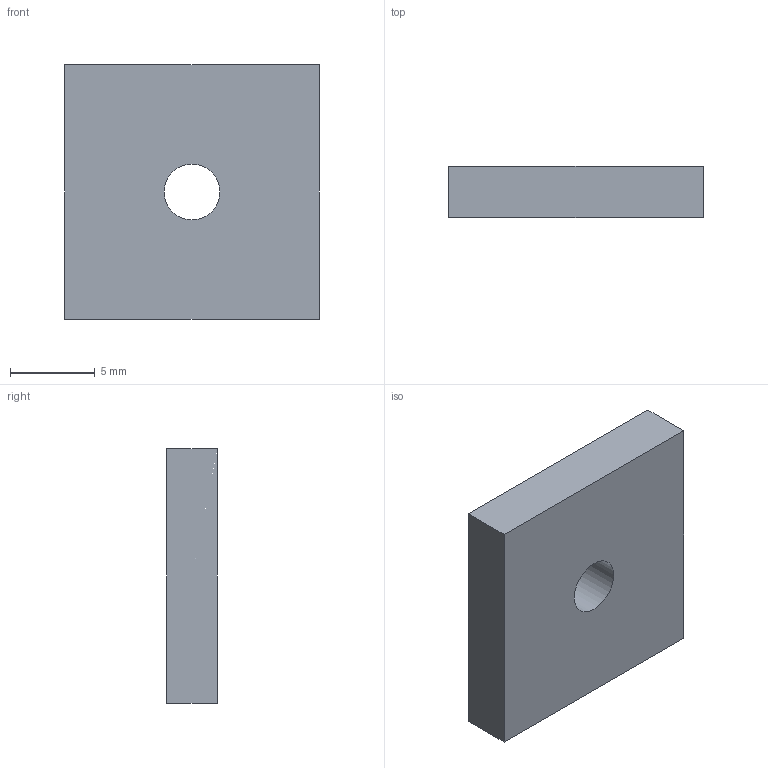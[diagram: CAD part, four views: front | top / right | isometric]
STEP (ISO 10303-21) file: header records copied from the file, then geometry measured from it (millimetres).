
FILE_DESCRIPTION(/* description */ ('Unknown'),/* implementation_level */ '2;1');
FILE_NAME(/* name */ 'BSN08M4',/* time_stamp */ '2018-11-12T16:48:57+00:00',/* author */ ('Unknown'),/* organization */ ('Unknown'),/* preprocessor_version */ 'ST-DEVELOPER v16.7',/* originating_system */ 'DEX',/* authorisation */ $);
FILE_SCHEMA (('AUTOMOTIVE_DESIGN {1 0 10303 214 3 1 1}'));
Length unit declared in the file: millimetre
Products named in the file (1): BSN08M4
Bounding box: 15 x 3 x 15 mm (x, y, z)
Volume: 649.3 mm3; surface area: 644 mm2
Topology: 1 solids, 1 shells, 7 faces, 15 edges, 10 vertices
Faces by surface type: plane 6, cylinder 1
Full cylindrical faces by diameter (mm): 3.3 x1
Entity records: 220 total; most frequent: DIRECTION 32, CARTESIAN_POINT 32, ORIENTED_EDGE 28, EDGE_CURVE 14, LINE 12, VECTOR 12, VERTEX_POINT 10, EDGE_LOOP 10
